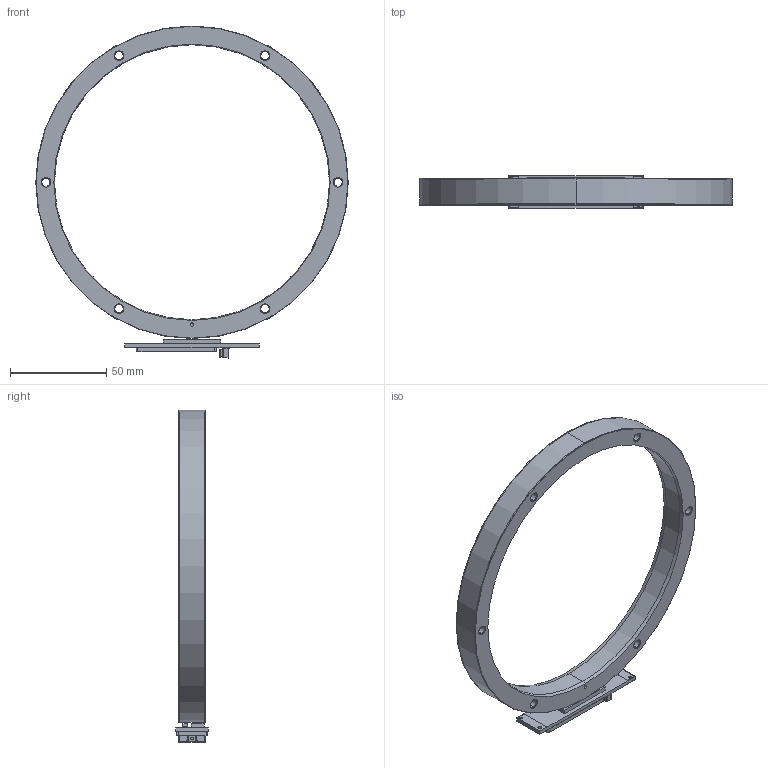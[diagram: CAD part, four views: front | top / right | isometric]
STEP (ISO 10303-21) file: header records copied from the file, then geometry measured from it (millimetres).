
FILE_DESCRIPTION (( 'STEP AP214' ), '1' );
FILE_NAME ('DBRxVx_SAR162.STEP', '2024-02-01T10:00:40', ( '' ), ( '' ), 'SwSTEP 2.0', 'SolidWorks 2022', '' );
FILE_SCHEMA (( 'AUTOMOTIVE_DESIGN' ));
Length unit declared in the file: millimetre
Products named in the file (1): DBRxVx_SAR162
Bounding box: 162.55 x 17 x 172.7 mm (x, y, z)
Volume: 68620.2 mm3; surface area: 27333.2 mm2
Topology: 2 solids, 2 shells, 1410 faces, 3872 edges, 2571 vertices
Faces by surface type: plane 1037, bspline 232, cylinder 93, cone 40, torus 4, sphere 4
Entity records: 72238 total; most frequent: CARTESIAN_POINT 26191, ORIENTED_EDGE 7734, DIRECTION 3913, EDGE_CURVE 3867, VERTEX_POINT 2571, B_SPLINE_CURVE_WITH_KNOTS 2424, EDGE_LOOP 1546, UNCERTAINTY_MEASURE_WITH_UNIT 1414
